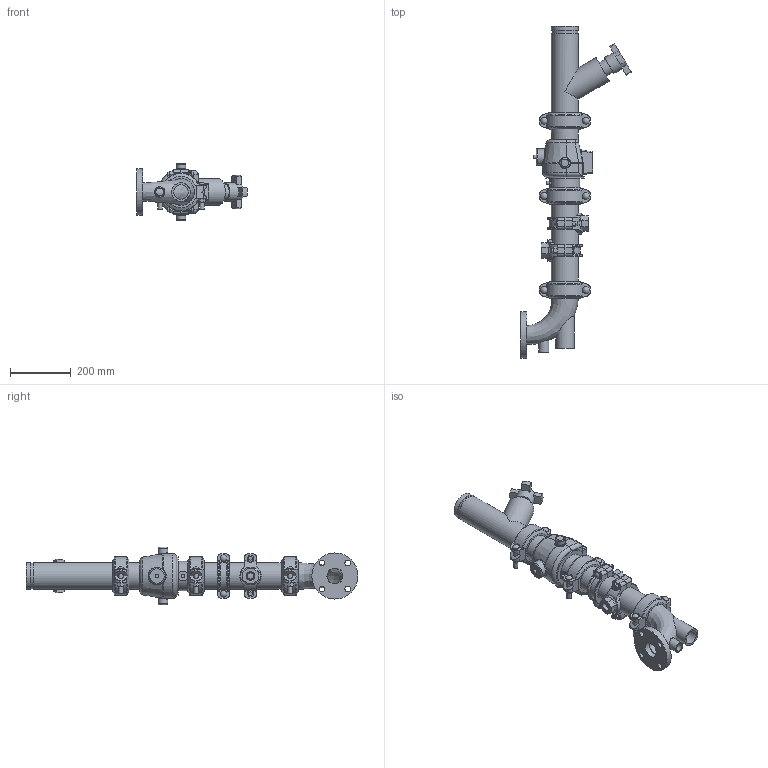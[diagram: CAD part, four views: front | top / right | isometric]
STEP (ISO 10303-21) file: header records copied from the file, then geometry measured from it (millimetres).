
FILE_DESCRIPTION(/* description */ (''),/* implementation_level */ '2;1');
FILE_NAME(/* name */ 'P:\Inventor CPS India\2021\To be checked\Pump Drop GDP\STEP\Victaulic_IPS_Horizontal DVI_CL 150_Series 383\Victaulic_IPS_Horizontal DVI_CL 150_Series 383 (OGSxFLG)_03.0x02.0 (80x50).stp',/* time_stamp */ '2022-04-07T12:22:16+06:00',/* author */ ('Vjadhav'),/* organization */ (''),/* preprocessor_version */ 'ST-DEVELOPER v16.1',/* originating_system */ 'Autodesk Inventor 2016',/* authorisation */ '');
FILE_SCHEMA (('AUTOMOTIVE_DESIGN { 1 0 10303 214 3 1 1 }'));
Length unit declared in the file: inch
Products named in the file (9): 177N-04; Pipe-02; 716H-04; 789-02; 920N LOWER HSG-05; 920NT-HSG-17; 920NT-17; R100F-01; Victaulic_IPS_Horizontal DVI_CL 150_Series 383 (OGSxFLG)
Assembly tree (11 placements, depth 3):
  Victaulic_IPS_Horizontal DVI_CL 150_Series 383 (OGSxFLG)
    177N-04  x3
    Pipe-02
    716H-04
    789-02
    920NT-17  x2
      920N LOWER HSG-05
      920NT-HSG-17
    R100F-01
Bounding box: 365.25 x 1096.96 x 190.5 mm (x, y, z)
Volume: 5730701.5 mm3; surface area: 1084632.5 mm2
Topology: 11 solids, 11 shells, 685 faces, 1727 edges, 1116 vertices
Faces by surface type: plane 344, cylinder 238, bspline 39, torus 35, sphere 16, cone 13
Full cylindrical faces by diameter (mm): 11.43 x2, 12.7 x8, 14.605 x12, 19.05 x4, 20.93 x2, 21.982 x4, 22.225 x6, 26.67 x1, 26.924 x2, 31.75 x2, 32.004 x1, 34.29 x1, 48.26 x1, 50.8 x1, 52.502 x1, 53.975 x1, 60.96 x2, 76.2 x3, 77.927 x3, 80.772 x1, 84.938 x7, 88.9 x18, 97.028 x1, 127 x1, 152.4 x1
Entity records: 13796 total; most frequent: CARTESIAN_POINT 4390, DIRECTION 1846, ORIENTED_EDGE 1742, EDGE_CURVE 864, AXIS2_PLACEMENT_3D 725, VERTEX_POINT 587, EDGE_LOOP 517, LINE 396
